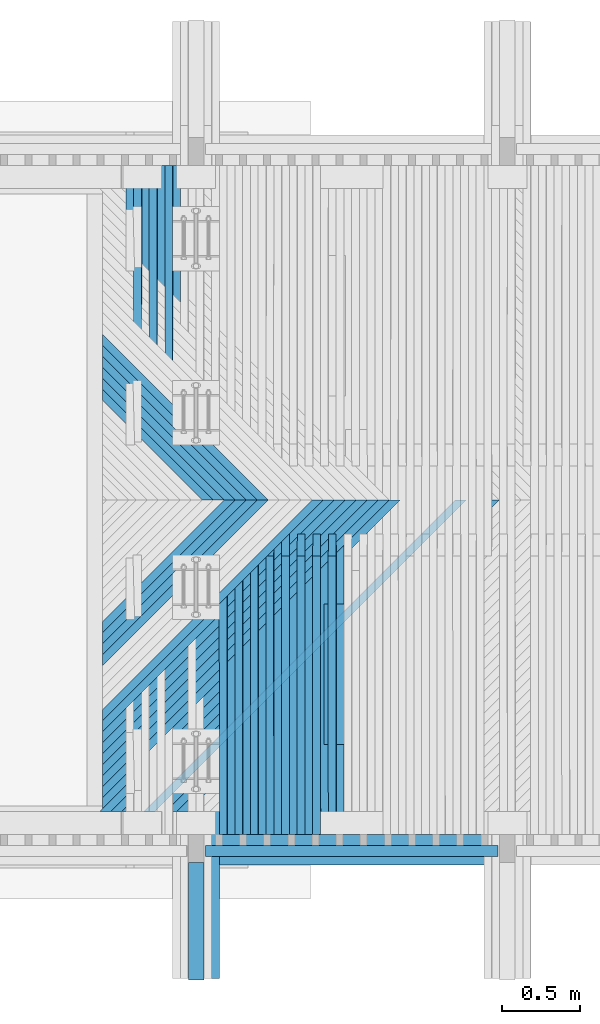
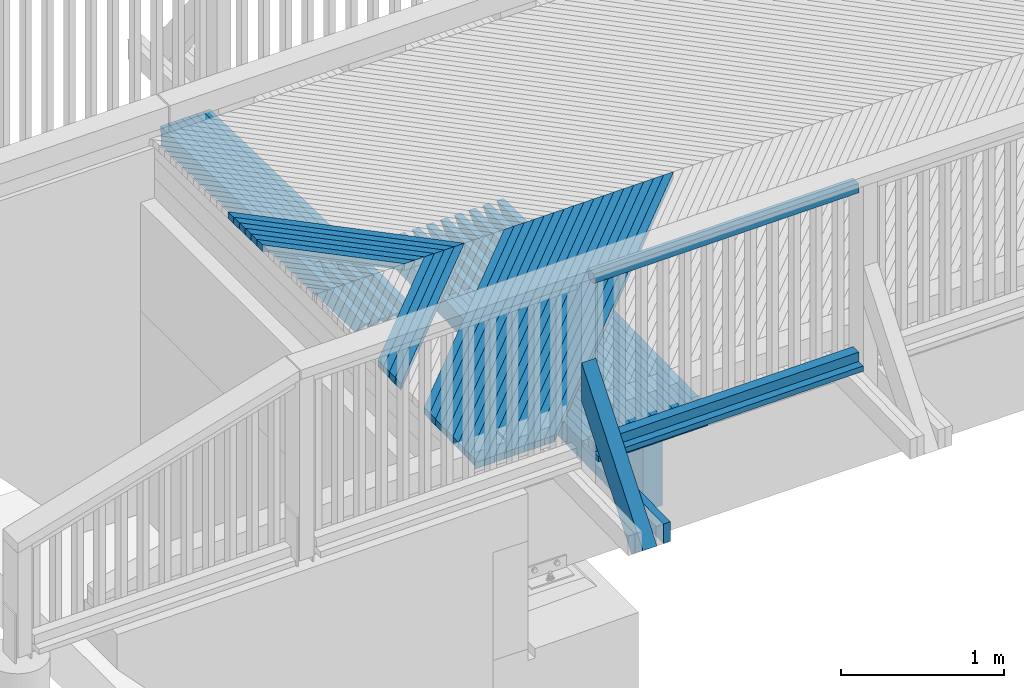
# One storey, part 17 of 53: 55 beams, 1 member.
"""IFC2X3 building model written with IfcOpenShell, lengths in millimetres."""

from ifc_helpers import new_model, si_unit, frame, origin_with_axes, place, context, subcontext, project, spatial, faceted_brep, material, type_object, element, save


model = new_model("IFC2X3")

# Units and contexts
model_context = context("Model", 3, precision=1e-05, world=origin_with_axes())
body_context = subcontext(model_context, "Body", "Model", "MODEL_VIEW")
ifc_project = project(units=[si_unit("LENGTHUNIT", "METRE", prefix="MILLI"), si_unit("AREAUNIT", "SQUARE_METRE"), si_unit("VOLUMEUNIT", "CUBIC_METRE"), si_unit("MASSUNIT", "GRAM", prefix="KILO"), si_unit("TIMEUNIT", "SECOND"), si_unit("PLANEANGLEUNIT", "RADIAN"), si_unit("SOLIDANGLEUNIT", "STERADIAN"), si_unit("THERMODYNAMICTEMPERATUREUNIT", "DEGREE_CELSIUS"), si_unit("LUMINOUSINTENSITYUNIT", "LUMEN")], contexts=[model_context])

# Site, building, storey
site_placement = place(None, origin_with_axes())
site = spatial("IfcSite", under=ifc_project, at=site_placement, Name="Undefined", CompositionType="ELEMENT")
building_placement = place(site_placement, origin_with_axes())
building = spatial("IfcBuilding", under=site, at=building_placement, Name="Undefined", CompositionType="ELEMENT")
storey_placement = place(building_placement, origin_with_axes())
storey = spatial("IfcBuildingStorey", under=building, at=storey_placement, Name="Undefined", CompositionType="ELEMENT", Elevation=0.0)

# Member
ifc_material = material(Name="TIMBER/Timber_Undefined")
member_type = type_object("IfcMemberType", Name="180*100", PredefinedType="NOTDEFINED")
member_placement = place(storey_placement, frame((0.0063475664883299, 39351.2316008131, 2900.91787464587), z_axis=(0.0, -0.783926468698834, 0.620853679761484), x_axis=(-4.01699999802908e-06, 0.620853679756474, 0.783926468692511)))
element("IfcMember", 1, at=member_placement, inside=storey, type_object=member_type, material=ifc_material, Name="KAIDEPYLVÄS", ObjectType="180*100", context=body_context, shape_type="Brep", body=[
    faceted_brep([(0.0, 50.0, -89.9999999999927), (0.0, 50.0, 90.0), (1214.99480886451, 50.0000000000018, 90.0000000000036), (987.716194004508, 50.0, -89.9999999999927), (0.0, -49.9999999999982, 90.0000000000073), (1214.99440716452, -49.9999999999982, 90.0000000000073), (-3.63797880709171e-12, -49.9999999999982, -90.0), (987.715792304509, -49.9999999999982, -89.9999999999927)], [[[0, 1, 2, 3]], [[1, 4, 5, 2]], [[4, 6, 7, 5]], [[6, 0, 3, 7]], [[5, 7, 3, 2]], [[6, 4, 1, 0]]]),
])

# Beams
beam_type_1 = type_object("IfcBeamType", Name="70*70", PredefinedType="NOTDEFINED")
for number, where, z_axis, x_axis, name in (
    (2, (60.4266460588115, 40110.0099444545, 3210.38471475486), (0.0, -1.0, 0.0), (0.999925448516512, 0.0, 0.0122105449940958), "BEAM"),
    (3, (60.4266460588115, 40110.0099444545, 4475.38471475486), (0.0, -1.0, 0.0), (0.999925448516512, 0.0, 0.0122105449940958), "BEAM"),
):
    element("IfcBeam", number, at=place(storey_placement, frame(where, z_axis=z_axis, x_axis=x_axis)), inside=storey, type_object=beam_type_1, material=ifc_material, Name=name, ObjectType="70*70", context=body_context, shape_type="Brep", body=[
        faceted_brep([(-3.63797880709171e-12, 35.0000000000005, -35.0), (-3.63797880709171e-12, 35.0000000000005, 35.0), (1880.14172547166, 34.9999999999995, 35.0), (1880.14172547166, 34.9999999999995, -35.0), (-3.63797880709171e-12, -34.9999999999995, 35.0), (1880.14172547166, -35.0000000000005, 35.0), (-3.63797880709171e-12, -34.9999999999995, -35.0), (1880.14172547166, -35.0000000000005, -35.0)], [[[0, 1, 2, 3]], [[1, 4, 5, 2]], [[4, 6, 7, 5]], [[6, 0, 3, 7]], [[5, 7, 3, 2]], [[6, 4, 1, 0]]]),
    ])
beam_type_2 = type_object("IfcBeamType", Name="195*40", PredefinedType="NOTDEFINED")
beam_1_placement = place(storey_placement, frame((60.2419045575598, 40117.5099444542, 3155.38760669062), z_axis=(0.0, -1.0, 0.0), x_axis=(0.999925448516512, 0.0, 0.0122105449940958)))
element("IfcBeam", 4, at=beam_1_placement, inside=storey, type_object=beam_type_2, material=ifc_material, Name="BEAM", ObjectType="195*40", context=body_context, shape_type="Brep", body=[
    faceted_brep([(0.0, 20.0, -97.5), (0.0, 20.0, 97.5), (1880.22135781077, 19.9999999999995, 97.5), (1880.22135781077, 19.9999999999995, -97.5), (3.63797880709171e-12, -20.0, 97.5), (1880.22135781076, -20.0000000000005, 97.5), (3.63797880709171e-12, -20.0, -97.5), (1880.22135781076, -20.0000000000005, -97.5)], [[[0, 1, 2, 3]], [[1, 4, 5, 2]], [[4, 6, 7, 5]], [[6, 0, 3, 7]], [[5, 7, 3, 2]], [[6, 4, 1, 0]]]),
])
beam_type_3 = type_object("IfcBeamType", Name="945*140", PredefinedType="NOTDEFINED")
beam_2_placement = place(storey_placement, frame((891.0, 41697.5, 2500.3779002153), z_axis=(0.0, 0.0, 1.0), x_axis=(0.0, -1.0, 0.0)))
element("IfcBeam", 5, at=beam_2_placement, inside=storey, type_object=beam_type_3, material=ifc_material, Name="PALKKI", ObjectType="945*140", context=body_context, shape_type="Brep", body=[
    faceted_brep([(0.0, 70.0, -472.5), (0.0, 70.0, 472.5), (905.0, 70.0, 472.5), (905.0, 70.0, -472.5), (0.0, -70.0, 472.5), (905.0, -70.0, 472.5), (0.0, -70.0, -472.5), (905.0, -70.0, -472.5)], [[[0, 1, 2, 3]], [[1, 4, 5, 2]], [[4, 6, 7, 5]], [[6, 0, 3, 7]], [[5, 7, 3, 2]], [[6, 4, 1, 0]]]),
])
beam_type_4 = type_object("IfcBeamType", Name="50*50", PredefinedType="NOTDEFINED")
beam_3_placement = place(storey_placement, frame((73.4729104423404, 42365.4998996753, 3183.9450845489), z_axis=(0.70722262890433, 0.706981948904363, -0.0035604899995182), x_axis=(-0.706832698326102, 0.706948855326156, -0.0247154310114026)))
element("IfcBeam", 6, at=beam_3_placement, inside=storey, type_object=beam_type_4, material=ifc_material, Name="BEAM", ObjectType="50*50", context=body_context, shape_type="Brep", body=[
    faceted_brep([(25.0011701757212, -24.9999999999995, -24.9999999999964), (-25.001170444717, -24.9999999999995, 25.0000000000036), (-26.415415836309, 25.0000000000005, 25.0000000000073), (23.5869248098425, 25.0000000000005, -24.9999999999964), (977.288643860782, 25.0000000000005, 24.9999999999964), (927.261060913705, 25.0000000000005, -25.0000000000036), (928.319039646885, -24.9999999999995, -25.0), (978.346622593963, -24.9999999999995, 24.9999999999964)], [[[0, 1, 2, 3]], [[3, 2, 4, 5]], [[0, 3, 5, 6]], [[1, 0, 6, 7]], [[2, 1, 7, 4]], [[6, 5, 4, 7]]]),
])
beam_4_placement = place(storey_placement, frame((144.191069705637, 42365.4998996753, 3184.87198634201), z_axis=(0.707222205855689, 0.706981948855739, -0.00364356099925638), x_axis=(-0.706835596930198, 0.706948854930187, -0.0246324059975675)))
element("IfcBeam", 7, at=beam_4_placement, inside=storey, type_object=beam_type_4, material=ifc_material, Name="BEAM", ObjectType="50*50", context=body_context, shape_type="Brep", body=[
    faceted_brep([(25.0011701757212, -24.9999999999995, -24.9999999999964), (-25.001170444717, -24.9999999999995, 25.0000000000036), (-26.415415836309, 25.0000000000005, 25.0000000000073), (23.5869248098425, 25.0000000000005, -24.9999999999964), (1077.33772433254, 25.0000000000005, 25.0), (1027.310376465, 25.0000000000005, -25.0000000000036), (1028.36004453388, -24.9999999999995, -25.0000000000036), (1078.38739240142, -24.9999999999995, 25.0)], [[[0, 1, 2, 3]], [[3, 2, 4, 5]], [[0, 3, 5, 6]], [[1, 0, 6, 7]], [[2, 1, 7, 4]], [[6, 5, 4, 7]]]),
])
beam_5_placement = place(storey_placement, frame((214.909337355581, 42364.5001003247, 3185.79058152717), z_axis=(0.707221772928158, -0.706981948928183, -0.00372663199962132), x_axis=(-0.706838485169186, -0.706948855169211, -0.0245493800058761)))
element("IfcBeam", 8, at=beam_5_placement, inside=storey, type_object=beam_type_4, material=ifc_material, Name="BEAM", ObjectType="50*50", context=body_context, shape_type="Brep", body=[
    faceted_brep([(23.4806436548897, -25.0, -25.0), (-26.4222658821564, -25.0000000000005, 25.0000000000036), (-25.0086637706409, 24.9999999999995, 24.9999999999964), (24.8942457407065, 25.0, -25.0), (1128.40039913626, 24.9999999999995, -24.9999999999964), (1127.35904169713, -25.0000000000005, -24.9999999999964), (1177.38615452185, -25.0000000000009, 25.0), (1178.42751196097, 24.9999999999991, 25.0000000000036)], [[[0, 1, 2, 3]], [[0, 3, 4, 5]], [[1, 0, 5, 6]], [[2, 1, 6, 7]], [[3, 2, 7, 4]], [[6, 5, 4, 7]]]),
])
beam_6_placement = place(storey_placement, frame((214.909337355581, 42365.4998996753, 3185.79058152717), z_axis=(0.707221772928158, 0.706981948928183, -0.00372663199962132), x_axis=(-0.706838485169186, 0.706948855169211, -0.0245493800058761)))
element("IfcBeam", 9, at=beam_6_placement, inside=storey, type_object=beam_type_4, material=ifc_material, Name="BEAM", ObjectType="50*50", context=body_context, shape_type="Brep", body=[
    faceted_brep([(25.0011701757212, -24.9999999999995, -24.9999999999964), (-25.001170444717, -24.9999999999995, 25.0000000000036), (-26.415415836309, 25.0000000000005, 25.0000000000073), (23.5869248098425, 25.0000000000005, -24.9999999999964), (1177.38615452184, 25.0000000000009, 24.9999999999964), (1127.35904169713, 25.0000000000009, -25.0000000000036), (1128.40039913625, -24.9999999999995, -25.0), (1178.42751196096, -24.9999999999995, 25.0)], [[[0, 1, 2, 3]], [[3, 2, 4, 5]], [[0, 3, 5, 6]], [[1, 0, 6, 7]], [[2, 1, 7, 4]], [[6, 5, 4, 7]]]),
])
beam_7_placement = place(storey_placement, frame((285.627712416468, 42364.5001003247, 3186.70087009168), z_axis=(0.707221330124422, -0.706981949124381, -0.00380970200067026), x_axis=(-0.706841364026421, -0.706948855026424, -0.0244663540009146)))
element("IfcBeam", 10, at=beam_7_placement, inside=storey, type_object=beam_type_4, material=ifc_material, Name="BEAM", ObjectType="50*50", context=body_context, shape_type="Brep", body=[
    faceted_brep([(23.4806436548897, -25.0, -25.0), (-26.4222658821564, -25.0000000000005, 25.0000000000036), (-25.0086637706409, 24.9999999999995, 24.9999999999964), (24.8942457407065, 25.0, -25.0), (1228.44010482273, 25.0, -25.0000000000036), (1227.40705788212, -24.9999999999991, -25.0), (1277.43393563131, -24.9999999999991, 24.9999999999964), (1278.46698257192, 25.0000000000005, 24.9999999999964)], [[[0, 1, 2, 3]], [[0, 3, 4, 5]], [[1, 0, 5, 6]], [[2, 1, 6, 7]], [[3, 2, 7, 4]], [[6, 5, 4, 7]]]),
])
beam_8_placement = place(storey_placement, frame((285.627712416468, 42365.4998996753, 3186.70087009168), z_axis=(0.707221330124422, 0.706981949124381, -0.00380970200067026), x_axis=(-0.70684136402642, 0.706948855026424, -0.0244663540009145)))
element("IfcBeam", 11, at=beam_8_placement, inside=storey, type_object=beam_type_4, material=ifc_material, Name="BEAM", ObjectType="50*50", context=body_context, shape_type="Brep", body=[
    faceted_brep([(25.0011701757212, -24.9999999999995, -24.9999999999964), (-25.001170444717, -24.9999999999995, 25.0000000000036), (-26.415415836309, 25.0000000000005, 25.0000000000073), (23.5869248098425, 25.0000000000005, -24.9999999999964), (1277.43393563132, 25.0, 25.0000000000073), (1227.40705788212, 25.0, -24.9999999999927), (1228.44010482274, -24.9999999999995, -24.9999999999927), (1278.46698257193, -24.9999999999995, 25.0000000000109)], [[[0, 1, 2, 3]], [[3, 2, 4, 5]], [[0, 3, 5, 6]], [[1, 0, 6, 7]], [[2, 1, 7, 4]], [[6, 5, 4, 7]]]),
])
beam_9_placement = place(storey_placement, frame((356.346193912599, 42364.5001003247, 3187.60285202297), z_axis=(0.707220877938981, -0.706981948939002, -0.00389277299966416), x_axis=(-0.706844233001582, -0.706948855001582, -0.0243833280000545)))
element("IfcBeam", 12, at=beam_9_placement, inside=storey, type_object=beam_type_4, material=ifc_material, Name="BEAM", ObjectType="50*50", context=body_context, shape_type="Brep", body=[
    faceted_brep([(23.4806436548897, -25.0, -25.0), (-26.4222658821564, -25.0000000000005, 25.0000000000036), (-25.0086637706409, 24.9999999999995, 24.9999999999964), (24.8942457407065, 25.0, -25.0), (1328.47916507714, 24.9999999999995, -25.0), (1327.45442860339, -24.9999999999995, -25.0000000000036), (1377.48107131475, -25.0, 25.0), (1378.50580778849, 25.0, 24.9999999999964)], [[[0, 1, 2, 3]], [[0, 3, 4, 5]], [[1, 0, 5, 6]], [[2, 1, 6, 7]], [[3, 2, 7, 4]], [[6, 5, 4, 7]]]),
])
beam_10_placement = place(storey_placement, frame((356.346193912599, 42365.4998996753, 3187.60285202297), z_axis=(0.707220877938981, 0.706981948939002, -0.00389277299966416), x_axis=(-0.706844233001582, 0.706948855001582, -0.0243833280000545)))
element("IfcBeam", 13, at=beam_10_placement, inside=storey, type_object=beam_type_4, material=ifc_material, Name="BEAM", ObjectType="50*50", context=body_context, shape_type="Brep", body=[
    faceted_brep([(25.0011701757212, -24.9999999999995, -24.9999999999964), (-25.001170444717, -24.9999999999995, 25.0000000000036), (-26.415415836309, 25.0000000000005, 25.0000000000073), (23.5869248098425, 25.0000000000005, -24.9999999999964), (1377.48107131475, 25.0, 25.0), (1327.4544286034, 25.0000000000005, -25.0), (1328.47916507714, -24.9999999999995, -24.9999999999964), (1378.50580778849, -25.0, 25.0)], [[[0, 1, 2, 3]], [[3, 2, 4, 5]], [[0, 3, 5, 6]], [[1, 0, 6, 7]], [[2, 1, 7, 4]], [[6, 5, 4, 7]]]),
])
beam_11_placement = place(storey_placement, frame((427.06478086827, 42364.5001003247, 3188.49652730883), z_axis=(0.707220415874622, -0.706981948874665, -0.0039758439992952), x_axis=(-0.706847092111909, -0.706948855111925, -0.0243003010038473)))
element("IfcBeam", 14, at=beam_11_placement, inside=storey, type_object=beam_type_4, material=ifc_material, Name="BEAM", ObjectType="50*50", context=body_context, shape_type="Brep", body=[
    faceted_brep([(23.4806436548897, -25.0, -25.0), (-26.4222658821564, -25.0000000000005, 25.0000000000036), (-25.0086637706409, 24.9999999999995, 24.9999999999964), (24.8942457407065, 25.0, -25.0), (1428.51758270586, 24.9999999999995, -24.9999999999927), (1427.50115666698, -24.9999999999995, -24.9999999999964), (1477.52756434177, -24.9999999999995, 25.0), (1478.54399038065, 25.0000000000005, 25.0)], [[[0, 1, 2, 3]], [[0, 3, 4, 5]], [[1, 0, 5, 6]], [[2, 1, 6, 7]], [[3, 2, 7, 4]], [[6, 5, 4, 7]]]),
])
beam_12_placement = place(storey_placement, frame((427.06478086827, 42365.4998996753, 3188.49652730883), z_axis=(0.707220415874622, 0.706981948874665, -0.0039758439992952), x_axis=(-0.706847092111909, 0.706948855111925, -0.0243003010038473)))
element("IfcBeam", 15, at=beam_12_placement, inside=storey, type_object=beam_type_4, material=ifc_material, Name="BEAM", ObjectType="50*50", context=body_context, shape_type="Brep", body=[
    faceted_brep([(25.0011701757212, -24.9999999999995, -24.9999999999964), (-25.001170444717, -24.9999999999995, 25.0000000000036), (-26.415415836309, 25.0000000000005, 25.0000000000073), (23.5869248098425, 25.0000000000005, -24.9999999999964), (1477.52756434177, 24.9999999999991, 25.0), (1427.50115666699, 24.9999999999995, -24.9999999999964), (1428.51758270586, -25.0, -25.0), (1478.54399038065, -25.0000000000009, 24.9999999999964)], [[[0, 1, 2, 3]], [[3, 2, 4, 5]], [[0, 3, 5, 6]], [[1, 0, 6, 7]], [[2, 1, 7, 4]], [[6, 5, 4, 7]]]),
])
beam_13_placement = place(storey_placement, frame((780.659263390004, 42364.5001003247, 3192.8403036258), z_axis=(0.707217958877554, -0.706981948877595, -0.00439119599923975), x_axis=(-0.706861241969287, -0.706948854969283, -0.0238851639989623)))
element("IfcBeam", 16, at=beam_13_placement, inside=storey, type_object=beam_type_4, material=ifc_material, Name="BEAM", ObjectType="50*50", context=body_context, shape_type="Brep", body=[
    faceted_brep([(23.4806436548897, -25.0, -25.0), (-26.4222658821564, -25.0000000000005, 25.0000000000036), (-25.0086637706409, 24.9999999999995, 24.9999999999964), (24.8942457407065, 25.0, -25.0), (1928.70012414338, 25.0000000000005, -24.9999999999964), (1927.72524901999, -24.9999999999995, -24.9999999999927), (1977.75048147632, -24.9999999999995, 25.0000000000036), (1978.7253565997, 25.0000000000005, 25.0000000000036)], [[[0, 1, 2, 3]], [[0, 3, 4, 5]], [[1, 0, 5, 6]], [[2, 1, 6, 7]], [[3, 2, 7, 4]], [[6, 5, 4, 7]]]),
])
beam_14_placement = place(storey_placement, frame((851.378462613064, 42364.5001003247, 3193.68413878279), z_axis=(0.707217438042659, -0.706981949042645, -0.00447426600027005), x_axis=(-0.706864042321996, -0.706948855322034, -0.0238021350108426)))
element("IfcBeam", 17, at=beam_14_placement, inside=storey, type_object=beam_type_4, material=ifc_material, Name="BEAM", ObjectType="50*50", context=body_context, shape_type="Brep", body=[
    faceted_brep([(23.4806436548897, -25.0, -25.0), (-26.4222658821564, -25.0000000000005, 25.0000000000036), (-25.0086637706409, 24.9999999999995, 24.9999999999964), (24.8942457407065, 25.0, -25.0), (2028.73474369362, 24.9999999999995, -24.9999999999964), (2027.76817857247, -25.0000000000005, -25.0), (2077.79317600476, -25.0000000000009, 25.0000000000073), (2078.7597411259, 24.9999999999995, 25.0000000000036)], [[[0, 1, 2, 3]], [[0, 3, 4, 5]], [[1, 0, 5, 6]], [[2, 1, 6, 7]], [[3, 2, 7, 4]], [[6, 5, 4, 7]]]),
])
beam_15_placement = place(storey_placement, frame((922.097760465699, 42364.5001003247, 3194.51966721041), z_axis=(0.707216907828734, -0.706981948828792, -0.00455733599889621), x_axis=(-0.706866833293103, -0.706948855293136, -0.0237191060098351)))
element("IfcBeam", 18, at=beam_15_placement, inside=storey, type_object=beam_type_4, material=ifc_material, Name="BEAM", ObjectType="50*50", context=body_context, shape_type="Brep", body=[
    faceted_brep([(23.4806436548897, -25.0, -25.0), (-26.4222658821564, -25.0000000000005, 25.0000000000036), (-25.0086637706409, 24.9999999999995, 24.9999999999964), (24.8942457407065, 25.0, -25.0), (2128.76873875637, 25.0, -25.0000000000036), (2127.81048355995, -24.9999999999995, -25.0000000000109), (2177.83524597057, -25.0, 24.9999999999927), (2178.79350116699, 25.0, 24.9999999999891)], [[[0, 1, 2, 3]], [[0, 3, 4, 5]], [[1, 0, 5, 6]], [[2, 1, 6, 7]], [[3, 2, 7, 4]], [[6, 5, 4, 7]]]),
])
beam_16_placement = place(storey_placement, frame((992.817155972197, 42364.5001003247, 3195.34688889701), z_axis=(0.707216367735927, -0.706981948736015, -0.00464040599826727), x_axis=(-0.706869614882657, -0.706948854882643, -0.0236360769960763)))
element("IfcBeam", 19, at=beam_16_placement, inside=storey, type_object=beam_type_4, material=ifc_material, Name="BEAM", ObjectType="50*50", context=body_context, shape_type="Brep", body=[
    faceted_brep([(23.4806436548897, -25.0, -25.0), (-26.4222658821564, -25.0000000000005, 25.0000000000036), (-25.0086637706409, 24.9999999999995, 24.9999999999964), (24.8942457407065, 25.0, -25.0), (2228.80211195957, 24.9999999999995, -25.0000000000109), (2227.85216660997, -25.0, -25.0000000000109), (2277.87669396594, -25.0, 24.9999999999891), (2278.82663931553, 25.0, 24.9999999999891)], [[[0, 1, 2, 3]], [[0, 3, 4, 5]], [[1, 0, 5, 6]], [[2, 1, 6, 7]], [[3, 2, 7, 4]], [[6, 5, 4, 7]]]),
])
beam_17_placement = place(storey_placement, frame((1063.53664815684, 42364.5001003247, 3196.16580383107), z_axis=(0.707215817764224, -0.706981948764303, -0.00472347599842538), x_axis=(-0.706872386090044, -0.706948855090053, -0.0235530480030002)))
element("IfcBeam", 20, at=beam_17_placement, inside=storey, type_object=beam_type_4, material=ifc_material, Name="BEAM", ObjectType="50*50", context=body_context, shape_type="Brep", body=[
    faceted_brep([(23.4806436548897, -25.0, -25.0), (-26.4222658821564, -25.0000000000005, 25.0000000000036), (-25.0086637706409, 24.9999999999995, 24.9999999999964), (24.8942457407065, 25.0, -25.0), (2328.83486921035, 24.9999999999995, -25.0), (2327.89323362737, -25.0000000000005, -24.9999999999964), (2377.91752596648, -25.0000000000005, 25.0000000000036), (2378.85916154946, 24.9999999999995, 25.0000000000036)], [[[0, 1, 2, 3]], [[0, 3, 4, 5]], [[1, 0, 5, 6]], [[2, 1, 6, 7]], [[3, 2, 7, 4]], [[6, 5, 4, 7]]]),
])
beam_18_placement = place(storey_placement, frame((1134.25623604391, 42364.5001003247, 3196.97641200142), z_axis=(0.707215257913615, -0.706981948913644, -0.00480654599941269), x_axis=(-0.706875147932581, -0.706948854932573, -0.0234700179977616)))
element("IfcBeam", 21, at=beam_18_placement, inside=storey, type_object=beam_type_4, material=ifc_material, Name="BEAM", ObjectType="50*50", context=body_context, shape_type="Brep", body=[
    faceted_brep([(23.4806436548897, -25.0, -25.0), (-26.4222658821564, -25.0000000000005, 25.0000000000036), (-25.0086637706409, 24.9999999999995, 24.9999999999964), (24.8942457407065, 25.0, -25.0), (2428.8670100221, 24.9999999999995, -24.9999999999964), (2427.93368417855, -25.0000000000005, -24.9999999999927), (2477.9577414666, -24.9999999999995, 25.0000000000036), (2478.89106731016, 25.0, 25.0000000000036)], [[[0, 1, 2, 3]], [[0, 3, 4, 5]], [[1, 0, 5, 6]], [[2, 1, 6, 7]], [[3, 2, 7, 4]], [[6, 5, 4, 7]]]),
])
beam_19_placement = place(storey_placement, frame((1204.9759186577, 42364.5001003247, 3197.77871339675), z_axis=(0.707214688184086, -0.706981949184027, -0.00488961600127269), x_axis=(-0.706877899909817, -0.706948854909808, -0.0233869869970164)))
element("IfcBeam", 22, at=beam_19_placement, inside=storey, type_object=beam_type_4, material=ifc_material, Name="BEAM", ObjectType="50*50", context=body_context, shape_type="Brep", body=[
    faceted_brep([(23.4806436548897, -25.0, -25.0), (-26.4222658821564, -25.0000000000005, 25.0000000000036), (-25.0086637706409, 24.9999999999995, 24.9999999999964), (24.8942457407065, 25.0, -25.0), (2528.89853878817, 24.9999999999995, -24.9999999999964), (2527.97352265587, -25.0000000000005, -24.9999999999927), (2577.99734489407, -25.0, 25.0000000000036), (2578.92236102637, 24.9999999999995, 25.0)], [[[0, 1, 2, 3]], [[0, 3, 4, 5]], [[1, 0, 5, 6]], [[2, 1, 6, 7]], [[3, 2, 7, 4]], [[6, 5, 4, 7]]]),
])
beam_20_placement = place(storey_placement, frame((1275.69569502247, 42364.5001003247, 3198.57270800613), z_axis=(0.707214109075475, -0.706981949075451, -0.00497268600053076), x_axis=(-0.70688064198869, -0.706948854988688, -0.0233039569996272)))
element("IfcBeam", 23, at=beam_20_placement, inside=storey, type_object=beam_type_4, material=ifc_material, Name="BEAM", ObjectType="50*50", context=body_context, shape_type="Brep", body=[
    faceted_brep([(23.4806436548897, -25.0, -25.0), (-26.4222658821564, -25.0000000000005, 25.0000000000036), (-25.0086637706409, 24.9999999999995, 24.9999999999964), (24.8942457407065, 25.0, -25.0), (2628.92945847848, 25.0, -24.9999999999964), (2628.01275193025, -24.9999999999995, -24.9999999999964), (2678.0363391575, -24.9999999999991, 25.0), (2678.95304570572, 25.0, 25.0)], [[[0, 1, 2, 3]], [[0, 3, 4, 5]], [[1, 0, 5, 6]], [[2, 1, 6, 7]], [[3, 2, 7, 4]], [[6, 5, 4, 7]]]),
])
beam_21_placement = place(storey_placement, frame((1346.41556416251, 42364.5001003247, 3199.3583958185), z_axis=(0.70721352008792, -0.706981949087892, -0.00505575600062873), x_axis=(-0.706883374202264, -0.706948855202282, -0.0232209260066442)))
element("IfcBeam", 24, at=beam_21_placement, inside=storey, type_object=beam_type_4, material=ifc_material, Name="BEAM", ObjectType="50*50", context=body_context, shape_type="Brep", body=[
    faceted_brep([(23.4806436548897, -25.0, -25.0), (-26.4222658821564, -25.0000000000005, 25.0000000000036), (-25.0086637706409, 24.9999999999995, 24.9999999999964), (24.8942457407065, 25.0, -25.0), (2728.95977176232, 25.0, -25.0), (2728.0513747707, -25.0, -25.0), (2778.07472698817, -25.0, 24.9999999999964), (2778.98312397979, 25.0000000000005, 24.9999999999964)], [[[0, 1, 2, 3]], [[0, 3, 4, 5]], [[1, 0, 5, 6]], [[2, 1, 6, 7]], [[3, 2, 7, 4]], [[6, 5, 4, 7]]]),
])
for number, where, z_axis, x_axis, name in (
    (25, (1417.1355251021, 42364.5001003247, 3200.13577682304), (0.70721292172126, -0.706981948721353, -0.00513882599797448), (-0.706886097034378, -0.706948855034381, -0.0231378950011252), "BEAM"),
    (26, (1487.85557686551, 42364.5001003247, 3200.90485100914), (0.707212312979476, -0.706981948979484, -0.00522189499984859), (-0.706888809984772, -0.70694885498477, -0.0230548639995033), "BEAM"),
    (27, (1558.57571847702, 42364.5001003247, 3201.66561836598), (0.707211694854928, -0.706981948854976, -0.00530496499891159), (-0.706891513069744, -0.706948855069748, -0.0229718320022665), "BEAM"),
    (28, (1629.2959489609, 42364.5001003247, 3202.41807888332), (0.707211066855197, -0.706981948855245, -0.00538803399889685), (-0.706894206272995, -0.706948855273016, -0.0228888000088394), "BEAM"),
    (29, (1700.01626734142, 42364.5001003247, 3203.16223255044), (0.707210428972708, -0.706981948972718, -0.00547110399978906), (-0.706896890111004, -0.706948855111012, -0.0228057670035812), "BEAM"),
    (30, (1770.73667264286, 42364.5001003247, 3203.89807935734), (0.70720978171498, -0.706981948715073, -0.00555417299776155), (-0.706899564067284, -0.706948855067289, -0.0227227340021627), "BEAM"),
    (31, (1841.45716388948, 42364.5001003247, 3204.62561929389), (0.707209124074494, -0.706981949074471, -0.00563724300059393), (-0.706902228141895, -0.706948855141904, -0.0226397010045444), "BEAM"),
    (32, (1912.17774010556, 42364.5001003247, 3205.34485234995), (0.707208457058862, -0.706981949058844, -0.00572031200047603), (-0.706904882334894, -0.706948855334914, -0.0225566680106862), "BEAM"),
):
    element("IfcBeam", number, at=place(storey_placement, frame(where, z_axis=z_axis, x_axis=x_axis)), inside=storey, type_object=beam_type_4, material=ifc_material, Name=name, ObjectType="50*50", context=body_context, shape_type="Brep", body=[
        faceted_brep([(24.8942457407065, 25.0, -25.0), (-25.0086637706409, 24.9999999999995, 24.9999999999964), (2804.34067830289, 25.0, 25.0000000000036), (2854.34301907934, 24.9999999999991, -25.0000000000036), (-26.4222658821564, -25.0000000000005, 25.0000000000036), (2802.92643296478, -25.0, 25.0), (23.4806436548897, -25.0, -25.0), (2852.92877373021, -25.0000000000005, -25.0000000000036)], [[[0, 1, 2, 3]], [[1, 4, 5, 2]], [[4, 6, 7, 5]], [[6, 0, 3, 7]], [[5, 7, 3, 2]], [[6, 4, 1, 0]]]),
    ])
beam_type_5 = type_object("IfcBeamType", Name="150*50", PredefinedType="NOTDEFINED")
for number, where, z_axis, x_axis, name in (
    (33, (875.515037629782, 40216.5046076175, 3050.98345109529), (-0.0119160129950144, -0.0199960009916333, 0.999729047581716), (-0.000238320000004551, 0.99980006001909, 0.0199945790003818), "BEAM"),
    (34, (775.50210878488, 40216.5046076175, 3049.79137099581), (-0.0120821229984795, -0.019996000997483, 0.999727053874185), (-0.000241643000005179, 0.999800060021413, 0.0199945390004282), "BEAM"),
    (35, (675.489379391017, 40216.5046076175, 3048.58267323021), (-0.0122482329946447, -0.0199960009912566, 0.999725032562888), (-0.000244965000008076, 0.99980006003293, 0.0199944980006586), "BEAM"),
    (36, (575.476852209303, 40216.5046076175, 3047.35735783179), (-0.012414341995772, -0.0199960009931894, 0.99972298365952), (-0.000248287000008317, 0.999800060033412, 0.0199944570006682), "BEAM"),
    (37, (475.464530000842, 40216.5046076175, 3046.11542483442), (-0.0125804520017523, -0.0199960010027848, 0.999720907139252), (-0.000251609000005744, 0.999800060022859, 0.0199944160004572), "BEAM"),
    (38, (375.452415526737, 40216.5046076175, 3044.85687427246), (-0.0127465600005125, -0.0199960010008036, 0.9997188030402), (-0.000254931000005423, 0.999800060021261, 0.0199943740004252), "BEAM"),
    (39, (275.44051154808, 40216.5046076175, 3043.58170618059), (-0.0129126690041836, -0.0199960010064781, 0.999716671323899), (-0.000258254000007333, 0.99980006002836, 0.0199943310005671), "BEAM"),
    (40, (175.42882082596, 40216.5046076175, 3042.28992059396), (-0.0130787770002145, -0.0199960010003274, 0.999714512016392), (-0.00026157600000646, 0.999800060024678, 0.0199942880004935), "BEAM"),
):
    element("IfcBeam", number, at=place(storey_placement, frame(where, z_axis=z_axis, x_axis=x_axis)), inside=storey, type_object=beam_type_5, material=ifc_material, Name=name, ObjectType="150*50", context=body_context, shape_type="Brep", body=[
        faceted_brep([(1.28420651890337e-08, -24.9999999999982, -74.9999999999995), (-1.28347892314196e-08, -24.9999999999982, 75.0), (-1.28347892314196e-08, 25.0, 75.0), (1.28420651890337e-08, 25.0000000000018, -75.0), (1928.42646353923, -25.0000000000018, -75.0), (1789.96936433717, -25.0000000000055, 74.9999999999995), (1789.96936408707, 24.9999999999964, 75.0000000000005), (1928.42646328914, 24.9999999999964, -74.9999999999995)], [[[0, 1, 2, 3]], [[1, 0, 4, 5]], [[2, 1, 5, 6]], [[3, 2, 6, 7]], [[0, 3, 7, 4]], [[7, 6, 5, 4]]]),
    ])
for number, where, z_axis, x_axis, name in (
    (41, (925.531616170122, 40216.5046076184, 3051.5713008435), (-0.011749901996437, -0.019996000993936, 0.999731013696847), (-0.000234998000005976, 0.99980006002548, 0.0199946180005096), "BEAM"),
    (42, (825.518588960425, 40216.5046076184, 3050.38753125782), (-0.0119160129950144, -0.0199960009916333, 0.999729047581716), (-0.000238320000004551, 0.99980006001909, 0.0199945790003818), "BEAM"),
    (43, (725.505759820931, 40216.5046076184, 3049.18714398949), (-0.0120821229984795, -0.019996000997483, 0.999727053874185), (-0.000241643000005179, 0.999800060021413, 0.0199945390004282), "BEAM"),
    (44, (625.493131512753, 40216.5046076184, 3047.97013907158), (-0.0122482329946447, -0.0199960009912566, 0.999725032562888), (-0.000244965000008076, 0.99980006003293, 0.0199944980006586), "BEAM"),
    (45, (525.480706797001, 40216.5046076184, 3046.73651653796), (-0.012414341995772, -0.0199960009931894, 0.99972298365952), (-0.000248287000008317, 0.999800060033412, 0.0199944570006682), "BEAM"),
    (46, (425.468488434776, 40216.5046076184, 3045.48627642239), (-0.0125804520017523, -0.0199960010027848, 0.999720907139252), (-0.000251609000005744, 0.999800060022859, 0.0199944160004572), "BEAM"),
    (47, (325.456479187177, 40216.5046076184, 3044.21941875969), (-0.0127465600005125, -0.0199960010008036, 0.9997188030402), (-0.000254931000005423, 0.999800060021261, 0.0199943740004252), "BEAM"),
    (48, (225.444681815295, 40216.5046076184, 3042.93594358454), (-0.0129126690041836, -0.0199960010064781, 0.999716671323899), (-0.000258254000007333, 0.99980006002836, 0.0199943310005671), "BEAM"),
):
    element("IfcBeam", number, at=place(storey_placement, frame(where, z_axis=z_axis, x_axis=x_axis)), inside=storey, type_object=beam_type_5, material=ifc_material, Name=name, ObjectType="150*50", context=body_context, shape_type="Brep", body=[
        faceted_brep([(1.28420651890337e-08, -24.9999999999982, -74.9999999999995), (-1.28347892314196e-08, -24.9999999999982, 75.0), (-1.28347892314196e-08, 25.0, 75.0), (1.28420651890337e-08, 25.0000000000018, -75.0), (2375.00494422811, 25.0000000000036, -75.0), (2375.0049444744, -24.9999999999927, -74.9999999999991), (2510.5924871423, -24.9999999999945, 60.5875430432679), (2150.42514405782, -24.9999999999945, 75.0), (2150.42515052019, 25.0000000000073, 75.0), (2510.59248715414, 25.0000000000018, 60.5875433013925)], [[[0, 1, 2, 3]], [[0, 3, 4, 5]], [[1, 0, 5, 6, 7]], [[2, 1, 7, 8]], [[4, 3, 2, 8, 9]], [[5, 4, 9, 6]], [[6, 9, 8, 7]]]),
    ])
beam_22_placement = place(storey_placement, frame((125.678660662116, 39292.7893322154, 3023.1631781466), z_axis=(-0.0130787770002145, -0.0199960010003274, 0.999714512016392), x_axis=(-0.000262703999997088, 0.999800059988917, 0.0199942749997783)))
element("IfcBeam", 49, at=beam_22_placement, inside=storey, type_object=beam_type_5, material=ifc_material, Name="BEAM", ObjectType="150*50", context=body_context, shape_type="Brep", body=[
    faceted_brep([(1.28420651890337e-08, -24.9999999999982, -74.9999999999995), (-1.28347892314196e-08, -24.9999999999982, 75.0), (-1.28347892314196e-08, 25.0, 75.0), (1.28420651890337e-08, 25.0000000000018, -75.0), (3298.90497884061, 24.9999999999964, -74.9999999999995), (3298.90492234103, -25.0, -74.9999999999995), (3434.49245887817, -25.0, 60.5875365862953), (3074.32503029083, -25.0, 75.0000000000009), (3074.32503673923, 25.0000000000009, 75.0), (3434.49251531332, 24.9999999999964, 60.5875365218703)], [[[0, 1, 2, 3]], [[0, 3, 4, 5]], [[1, 0, 5, 6, 7]], [[2, 1, 7, 8]], [[4, 3, 2, 8, 9]], [[5, 4, 9, 6]], [[8, 7, 6, 9]]]),
])
for number, where, z_axis, x_axis, name in (
    (50, (-424.636690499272, 44513.4953923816, 3034.19024171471), (-0.0140754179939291, 0.019996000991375, 0.999700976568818), (-0.000281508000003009, -0.999800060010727, 0.0199940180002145), "BEAM"),
    (51, (-324.626337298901, 44513.4953923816, 3035.58173150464), (-0.0139093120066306, 0.0199960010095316, 0.999703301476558), (-0.000278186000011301, -0.999800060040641, 0.0199940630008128), "BEAM"),
    (52, (-224.615754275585, 44513.4953923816, 3036.95660402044), (-0.0137432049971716, 0.0199960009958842, 0.999705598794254), (-0.000274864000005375, -0.999800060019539, 0.0199941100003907), "BEAM"),
    (53, (-124.60494419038, 44513.4953923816, 3038.31485922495), (-0.0135770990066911, 0.019996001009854, 0.999707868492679), (-0.000271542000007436, -0.999800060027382, 0.0199941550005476), "BEAM"),
):
    element("IfcBeam", number, at=place(storey_placement, frame(where, z_axis=z_axis, x_axis=x_axis)), inside=storey, type_object=beam_type_5, material=ifc_material, Name=name, ObjectType="150*50", context=body_context, shape_type="Brep", body=[
        faceted_brep([(1.28420651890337e-08, -24.9999999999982, -74.9999999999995), (1.28420651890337e-08, 25.0000000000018, -75.0), (2375.00494422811, 25.0000000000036, -75.0), (2375.0049444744, -24.9999999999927, -74.9999999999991), (-1.28347892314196e-08, -24.9999999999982, 75.0), (-1.28347892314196e-08, 25.0, 75.0), (2150.42515052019, 25.0000000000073, 75.0), (2510.59248715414, 25.0000000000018, 60.5875433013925), (2510.5924871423, -24.9999999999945, 60.5875430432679), (2150.42514405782, -24.9999999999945, 75.0)], [[[0, 1, 2, 3]], [[0, 4, 5, 1]], [[2, 1, 5, 6, 7]], [[3, 2, 7, 8]], [[4, 0, 3, 8, 9]], [[5, 4, 9, 6]], [[8, 7, 6, 9]]]),
    ])
for number, where, z_axis, x_axis, name in (
    (54, (-374.621498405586, 44513.4953923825, 3034.88612679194), (-0.0139093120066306, 0.0199960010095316, 0.999703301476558), (-0.000278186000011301, -0.999800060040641, 0.0199940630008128), "BEAM"),
    (55, (-274.611030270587, 44513.4953923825, 3036.26930628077), (-0.0137432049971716, 0.0199960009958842, 0.999705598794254), (-0.000274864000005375, -0.999800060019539, 0.0199941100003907), "BEAM"),
    (56, (-174.600333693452, 44513.4953923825, 3037.6358684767), (-0.0135770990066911, 0.019996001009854, 0.999707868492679), (-0.000271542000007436, -0.999800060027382, 0.0199941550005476), "BEAM"),
):
    element("IfcBeam", number, at=place(storey_placement, frame(where, z_axis=z_axis, x_axis=x_axis)), inside=storey, type_object=beam_type_5, material=ifc_material, Name=name, ObjectType="150*50", context=body_context, shape_type="Brep", body=[
        faceted_brep([(1.28420651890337e-08, -24.9999999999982, -74.9999999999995), (-1.28347892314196e-08, -24.9999999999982, 75.0), (-1.28347892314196e-08, 25.0, 75.0), (1.28420651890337e-08, 25.0000000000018, -75.0), (1928.42646328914, 24.9999999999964, -74.9999999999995), (1928.42646353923, -25.0000000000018, -75.0), (1789.96936433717, -25.0000000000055, 74.9999999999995), (1789.96936408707, 24.9999999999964, 75.0000000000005)], [[[0, 1, 2, 3]], [[0, 3, 4, 5]], [[1, 0, 5, 6]], [[2, 1, 6, 7]], [[3, 2, 7, 4]], [[4, 7, 6, 5]]]),
    ])

save(model, "model.ifc")
